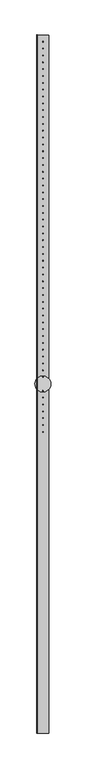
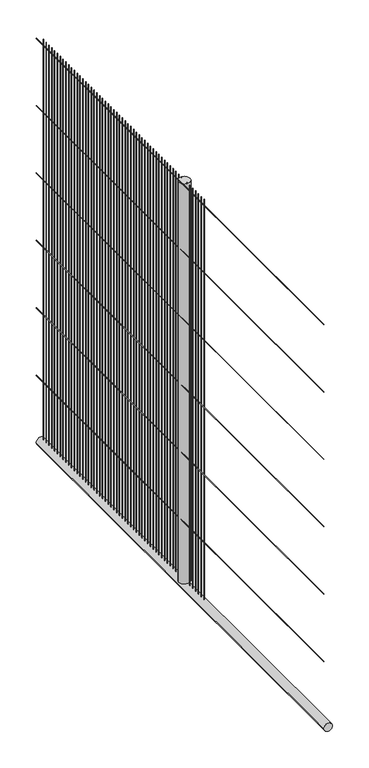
"""IFC4 building model written with IfcOpenShell, lengths in millimetres: railing geometry, Ballfangzaun."""

from ifc_helpers import new_model, si_unit, point, frame, frame_2d, origin, place, context, project, spatial, circle_curve, trimmed, segment, composite_curve, outline, extrude, source, transform, mapped, element, save


def railing_e47c1bca(model_context):
    return source(origin(), model_context, "Body", "SweptSolid", [
        extrude(outline(composite_curve([segment(trimmed(circle_curve(frame_2d((3098.5, 50872.2484531)), 1.5), [point((3098.5, 50873.7484531))], [point((3098.5, 50870.7484531))], False, "CARTESIAN"), True, "CONTINUOUS"), segment(trimmed(circle_curve(frame_2d((3098.5, 50872.2484531)), 1.5), [point((3098.5, 50870.7484531))], [point((3098.5, 50873.7484531))], False, "CARTESIAN"), True, "CONTINUOUS")], self_intersect=False)), frame((0.0, -35618.697095, 0.0), z_axis=(0.0, 1.0, 0.0), x_axis=(0.0, 0.0, 1.0)), (0.0, 0.0, 1.0), 3500.0),
        extrude(outline(composite_curve([segment(trimmed(circle_curve(frame_2d((3098.5, 50872.2484531)), 1.5), [point((3098.5, 50873.7484531))], [point((3098.5, 50870.7484531))], False, "CARTESIAN"), True, "CONTINUOUS"), segment(trimmed(circle_curve(frame_2d((3098.5, 50872.2484531)), 1.5), [point((3098.5, 50870.7484531))], [point((3098.5, 50873.7484531))], False, "CARTESIAN"), True, "CONTINUOUS")], self_intersect=False)), frame((0.0, -35618.697095, 0.0), z_axis=(0.0, 1.0, 0.0), x_axis=(0.0, 0.0, 1.0)), (0.0, 0.0, 1.0), 3500.0),
        extrude(outline(composite_curve([segment(trimmed(circle_curve(frame_2d((2598.5, 50872.2484531)), 1.5), [point((2598.5, 50873.7484531))], [point((2598.5, 50870.7484531))], False, "CARTESIAN"), True, "CONTINUOUS"), segment(trimmed(circle_curve(frame_2d((2598.5, 50872.2484531)), 1.5), [point((2598.5, 50870.7484531))], [point((2598.5, 50873.7484531))], False, "CARTESIAN"), True, "CONTINUOUS")], self_intersect=False)), frame((0.0, -35618.697095, 0.0), z_axis=(0.0, 1.0, 0.0), x_axis=(0.0, 0.0, 1.0)), (0.0, 0.0, 1.0), 3500.0),
        extrude(outline(composite_curve([segment(trimmed(circle_curve(frame_2d((2098.5, 50872.2484531)), 1.5), [point((2098.5, 50873.7484531))], [point((2098.5, 50870.7484531))], False, "CARTESIAN"), True, "CONTINUOUS"), segment(trimmed(circle_curve(frame_2d((2098.5, 50872.2484531)), 1.5), [point((2098.5, 50870.7484531))], [point((2098.5, 50873.7484531))], False, "CARTESIAN"), True, "CONTINUOUS")], self_intersect=False)), frame((0.0, -35618.697095, 0.0), z_axis=(0.0, 1.0, 0.0), x_axis=(0.0, 0.0, 1.0)), (0.0, 0.0, 1.0), 3500.0),
        extrude(outline(composite_curve([segment(trimmed(circle_curve(frame_2d((1598.5, 50872.2484531)), 1.5), [point((1598.5, 50873.7484531))], [point((1598.5, 50870.7484531))], False, "CARTESIAN"), True, "CONTINUOUS"), segment(trimmed(circle_curve(frame_2d((1598.5, 50872.2484531)), 1.5), [point((1598.5, 50870.7484531))], [point((1598.5, 50873.7484531))], False, "CARTESIAN"), True, "CONTINUOUS")], self_intersect=False)), frame((0.0, -35618.697095, 0.0), z_axis=(0.0, 1.0, 0.0), x_axis=(0.0, 0.0, 1.0)), (0.0, 0.0, 1.0), 3500.0),
        extrude(outline(composite_curve([segment(trimmed(circle_curve(frame_2d((1098.5, 50872.2484531)), 1.5), [point((1098.5, 50873.7484531))], [point((1098.5, 50870.7484531))], False, "CARTESIAN"), True, "CONTINUOUS"), segment(trimmed(circle_curve(frame_2d((1098.5, 50872.2484531)), 1.5), [point((1098.5, 50870.7484531))], [point((1098.5, 50873.7484531))], False, "CARTESIAN"), True, "CONTINUOUS")], self_intersect=False)), frame((0.0, -35618.697095, 0.0), z_axis=(0.0, 1.0, 0.0), x_axis=(0.0, 0.0, 1.0)), (0.0, 0.0, 1.0), 3500.0),
        extrude(outline(composite_curve([segment(trimmed(circle_curve(frame_2d((598.5, 50872.2484531)), 1.5), [point((598.5, 50873.7484531))], [point((598.5, 50870.7484531))], False, "CARTESIAN"), True, "CONTINUOUS"), segment(trimmed(circle_curve(frame_2d((598.5, 50872.2484531)), 1.5), [point((598.5, 50870.7484531))], [point((598.5, 50873.7484531))], False, "CARTESIAN"), True, "CONTINUOUS")], self_intersect=False)), frame((0.0, -35618.697095, 0.0), z_axis=(0.0, 1.0, 0.0), x_axis=(0.0, 0.0, 1.0)), (0.0, 0.0, 1.0), 3500.0),
        extrude(outline(composite_curve([segment(trimmed(circle_curve(frame_2d((100.0, 50902.2484531)), 30.0), [point((100.0, 50932.2484531))], [point((100.0, 50872.2484531))], False, "CARTESIAN"), True, "CONTINUOUS"), segment(trimmed(circle_curve(frame_2d((100.0, 50902.2484531)), 30.0), [point((100.0, 50872.2484531))], [point((100.0, 50932.2484531))], False, "CARTESIAN"), True, "CONTINUOUS")], self_intersect=False)), frame((0.0, -35618.697095, 0.0), z_axis=(0.0, 1.0, 0.0), x_axis=(0.0, 0.0, 1.0)), (0.0, 0.0, 1.0), 3500.0),
        extrude(outline(composite_curve([segment(trimmed(circle_curve(frame_2d((50902.2484531, -32153.0108205)), 1.5), [point((50900.7484531, -32153.0108205))], [point((50903.7484531, -32153.0108205))], False, "CARTESIAN"), True, "CONTINUOUS"), segment(trimmed(circle_curve(frame_2d((50902.2484531, -32153.0108205)), 1.5), [point((50903.7484531, -32153.0108205))], [point((50900.7484531, -32153.0108205))], False, "CARTESIAN"), True, "CONTINUOUS")], self_intersect=False)), frame((0.0, 0.0, 130.0), z_axis=(0.0, 0.0, 1.0), x_axis=(1.0, 0.0, 0.0)), (0.0, 0.0, 1.0), 2970.0),
        extrude(outline(composite_curve([segment(trimmed(circle_curve(frame_2d((50902.2484531, -32187.3245459)), 1.5), [point((50900.7484531, -32187.3245459))], [point((50903.7484531, -32187.3245459))], False, "CARTESIAN"), True, "CONTINUOUS"), segment(trimmed(circle_curve(frame_2d((50902.2484531, -32187.3245459)), 1.5), [point((50903.7484531, -32187.3245459))], [point((50900.7484531, -32187.3245459))], False, "CARTESIAN"), True, "CONTINUOUS")], self_intersect=False)), frame((0.0, 0.0, 130.0), z_axis=(0.0, 0.0, 1.0), x_axis=(1.0, 0.0, 0.0)), (0.0, 0.0, 1.0), 2970.0),
        extrude(outline(composite_curve([segment(trimmed(circle_curve(frame_2d((50902.2484531, -32221.6382714)), 1.5), [point((50900.7484531, -32221.6382714))], [point((50903.7484531, -32221.6382714))], False, "CARTESIAN"), True, "CONTINUOUS"), segment(trimmed(circle_curve(frame_2d((50902.2484531, -32221.6382714)), 1.5), [point((50903.7484531, -32221.6382714))], [point((50900.7484531, -32221.6382714))], False, "CARTESIAN"), True, "CONTINUOUS")], self_intersect=False)), frame((0.0, 0.0, 130.0), z_axis=(0.0, 0.0, 1.0), x_axis=(1.0, 0.0, 0.0)), (0.0, 0.0, 1.0), 2970.0),
        extrude(outline(composite_curve([segment(trimmed(circle_curve(frame_2d((50902.2484531, -32255.9519969)), 1.5), [point((50900.7484531, -32255.9519969))], [point((50903.7484531, -32255.9519969))], False, "CARTESIAN"), True, "CONTINUOUS"), segment(trimmed(circle_curve(frame_2d((50902.2484531, -32255.9519969)), 1.5), [point((50903.7484531, -32255.9519969))], [point((50900.7484531, -32255.9519969))], False, "CARTESIAN"), True, "CONTINUOUS")], self_intersect=False)), frame((0.0, 0.0, 130.0), z_axis=(0.0, 0.0, 1.0), x_axis=(1.0, 0.0, 0.0)), (0.0, 0.0, 1.0), 2970.0),
        extrude(outline(composite_curve([segment(trimmed(circle_curve(frame_2d((50902.2484531, -32290.2657224)), 1.5), [point((50900.7484531, -32290.2657224))], [point((50903.7484531, -32290.2657224))], False, "CARTESIAN"), True, "CONTINUOUS"), segment(trimmed(circle_curve(frame_2d((50902.2484531, -32290.2657224)), 1.5), [point((50903.7484531, -32290.2657224))], [point((50900.7484531, -32290.2657224))], False, "CARTESIAN"), True, "CONTINUOUS")], self_intersect=False)), frame((0.0, 0.0, 130.0), z_axis=(0.0, 0.0, 1.0), x_axis=(1.0, 0.0, 0.0)), (0.0, 0.0, 1.0), 2970.0),
        extrude(outline(composite_curve([segment(trimmed(circle_curve(frame_2d((50902.2484531, -32324.5794479)), 1.5), [point((50900.7484531, -32324.5794479))], [point((50903.7484531, -32324.5794479))], False, "CARTESIAN"), True, "CONTINUOUS"), segment(trimmed(circle_curve(frame_2d((50902.2484531, -32324.5794479)), 1.5), [point((50903.7484531, -32324.5794479))], [point((50900.7484531, -32324.5794479))], False, "CARTESIAN"), True, "CONTINUOUS")], self_intersect=False)), frame((0.0, 0.0, 130.0), z_axis=(0.0, 0.0, 1.0), x_axis=(1.0, 0.0, 0.0)), (0.0, 0.0, 1.0), 2970.0),
        extrude(outline(composite_curve([segment(trimmed(circle_curve(frame_2d((50902.2484531, -32358.8931734)), 1.5), [point((50900.7484531, -32358.8931734))], [point((50903.7484531, -32358.8931734))], False, "CARTESIAN"), True, "CONTINUOUS"), segment(trimmed(circle_curve(frame_2d((50902.2484531, -32358.8931734)), 1.5), [point((50903.7484531, -32358.8931734))], [point((50900.7484531, -32358.8931734))], False, "CARTESIAN"), True, "CONTINUOUS")], self_intersect=False)), frame((0.0, 0.0, 130.0), z_axis=(0.0, 0.0, 1.0), x_axis=(1.0, 0.0, 0.0)), (0.0, 0.0, 1.0), 2970.0),
        extrude(outline(composite_curve([segment(trimmed(circle_curve(frame_2d((50902.2484531, -32393.2068989)), 1.5), [point((50900.7484531, -32393.2068989))], [point((50903.7484531, -32393.2068989))], False, "CARTESIAN"), True, "CONTINUOUS"), segment(trimmed(circle_curve(frame_2d((50902.2484531, -32393.2068989)), 1.5), [point((50903.7484531, -32393.2068989))], [point((50900.7484531, -32393.2068989))], False, "CARTESIAN"), True, "CONTINUOUS")], self_intersect=False)), frame((0.0, 0.0, 130.0), z_axis=(0.0, 0.0, 1.0), x_axis=(1.0, 0.0, 0.0)), (0.0, 0.0, 1.0), 2970.0),
        extrude(outline(composite_curve([segment(trimmed(circle_curve(frame_2d((50902.2484531, -32427.5206244)), 1.5), [point((50900.7484531, -32427.5206244))], [point((50903.7484531, -32427.5206244))], False, "CARTESIAN"), True, "CONTINUOUS"), segment(trimmed(circle_curve(frame_2d((50902.2484531, -32427.5206244)), 1.5), [point((50903.7484531, -32427.5206244))], [point((50900.7484531, -32427.5206244))], False, "CARTESIAN"), True, "CONTINUOUS")], self_intersect=False)), frame((0.0, 0.0, 130.0), z_axis=(0.0, 0.0, 1.0), x_axis=(1.0, 0.0, 0.0)), (0.0, 0.0, 1.0), 2970.0),
        extrude(outline(composite_curve([segment(trimmed(circle_curve(frame_2d((50902.2484531, -32461.8343499)), 1.5), [point((50900.7484531, -32461.8343499))], [point((50903.7484531, -32461.8343499))], False, "CARTESIAN"), True, "CONTINUOUS"), segment(trimmed(circle_curve(frame_2d((50902.2484531, -32461.8343499)), 1.5), [point((50903.7484531, -32461.8343499))], [point((50900.7484531, -32461.8343499))], False, "CARTESIAN"), True, "CONTINUOUS")], self_intersect=False)), frame((0.0, 0.0, 130.0), z_axis=(0.0, 0.0, 1.0), x_axis=(1.0, 0.0, 0.0)), (0.0, 0.0, 1.0), 2970.0),
        extrude(outline(composite_curve([segment(trimmed(circle_curve(frame_2d((50902.2484531, -32496.1480754)), 1.5), [point((50900.7484531, -32496.1480754))], [point((50903.7484531, -32496.1480754))], False, "CARTESIAN"), True, "CONTINUOUS"), segment(trimmed(circle_curve(frame_2d((50902.2484531, -32496.1480754)), 1.5), [point((50903.7484531, -32496.1480754))], [point((50900.7484531, -32496.1480754))], False, "CARTESIAN"), True, "CONTINUOUS")], self_intersect=False)), frame((0.0, 0.0, 130.0), z_axis=(0.0, 0.0, 1.0), x_axis=(1.0, 0.0, 0.0)), (0.0, 0.0, 1.0), 2970.0),
        extrude(outline(composite_curve([segment(trimmed(circle_curve(frame_2d((50902.2484531, -32530.4618008)), 1.5), [point((50900.7484531, -32530.4618008))], [point((50903.7484531, -32530.4618008))], False, "CARTESIAN"), True, "CONTINUOUS"), segment(trimmed(circle_curve(frame_2d((50902.2484531, -32530.4618008)), 1.5), [point((50903.7484531, -32530.4618008))], [point((50900.7484531, -32530.4618008))], False, "CARTESIAN"), True, "CONTINUOUS")], self_intersect=False)), frame((0.0, 0.0, 130.0), z_axis=(0.0, 0.0, 1.0), x_axis=(1.0, 0.0, 0.0)), (0.0, 0.0, 1.0), 2970.0),
        extrude(outline(composite_curve([segment(trimmed(circle_curve(frame_2d((50902.2484531, -32564.7755263)), 1.5), [point((50900.7484531, -32564.7755263))], [point((50903.7484531, -32564.7755263))], False, "CARTESIAN"), True, "CONTINUOUS"), segment(trimmed(circle_curve(frame_2d((50902.2484531, -32564.7755263)), 1.5), [point((50903.7484531, -32564.7755263))], [point((50900.7484531, -32564.7755263))], False, "CARTESIAN"), True, "CONTINUOUS")], self_intersect=False)), frame((0.0, 0.0, 130.0), z_axis=(0.0, 0.0, 1.0), x_axis=(1.0, 0.0, 0.0)), (0.0, 0.0, 1.0), 2970.0),
        extrude(outline(composite_curve([segment(trimmed(circle_curve(frame_2d((50902.2484531, -32599.0892518)), 1.5), [point((50900.7484531, -32599.0892518))], [point((50903.7484531, -32599.0892518))], False, "CARTESIAN"), True, "CONTINUOUS"), segment(trimmed(circle_curve(frame_2d((50902.2484531, -32599.0892518)), 1.5), [point((50903.7484531, -32599.0892518))], [point((50900.7484531, -32599.0892518))], False, "CARTESIAN"), True, "CONTINUOUS")], self_intersect=False)), frame((0.0, 0.0, 130.0), z_axis=(0.0, 0.0, 1.0), x_axis=(1.0, 0.0, 0.0)), (0.0, 0.0, 1.0), 2970.0),
        extrude(outline(composite_curve([segment(trimmed(circle_curve(frame_2d((50902.2484531, -32633.4029773)), 1.5), [point((50900.7484531, -32633.4029773))], [point((50903.7484531, -32633.4029773))], False, "CARTESIAN"), True, "CONTINUOUS"), segment(trimmed(circle_curve(frame_2d((50902.2484531, -32633.4029773)), 1.5), [point((50903.7484531, -32633.4029773))], [point((50900.7484531, -32633.4029773))], False, "CARTESIAN"), True, "CONTINUOUS")], self_intersect=False)), frame((0.0, 0.0, 130.0), z_axis=(0.0, 0.0, 1.0), x_axis=(1.0, 0.0, 0.0)), (0.0, 0.0, 1.0), 2970.0),
        extrude(outline(composite_curve([segment(trimmed(circle_curve(frame_2d((50902.2484531, -32667.7167028)), 1.5), [point((50900.7484531, -32667.7167028))], [point((50903.7484531, -32667.7167028))], False, "CARTESIAN"), True, "CONTINUOUS"), segment(trimmed(circle_curve(frame_2d((50902.2484531, -32667.7167028)), 1.5), [point((50903.7484531, -32667.7167028))], [point((50900.7484531, -32667.7167028))], False, "CARTESIAN"), True, "CONTINUOUS")], self_intersect=False)), frame((0.0, 0.0, 130.0), z_axis=(0.0, 0.0, 1.0), x_axis=(1.0, 0.0, 0.0)), (0.0, 0.0, 1.0), 2970.0),
        extrude(outline(composite_curve([segment(trimmed(circle_curve(frame_2d((50902.2484531, -32702.0304283)), 1.5), [point((50900.7484531, -32702.0304283))], [point((50903.7484531, -32702.0304283))], False, "CARTESIAN"), True, "CONTINUOUS"), segment(trimmed(circle_curve(frame_2d((50902.2484531, -32702.0304283)), 1.5), [point((50903.7484531, -32702.0304283))], [point((50900.7484531, -32702.0304283))], False, "CARTESIAN"), True, "CONTINUOUS")], self_intersect=False)), frame((0.0, 0.0, 130.0), z_axis=(0.0, 0.0, 1.0), x_axis=(1.0, 0.0, 0.0)), (0.0, 0.0, 1.0), 2970.0),
        extrude(outline(composite_curve([segment(trimmed(circle_curve(frame_2d((50902.2484531, -32736.3441538)), 1.5), [point((50900.7484531, -32736.3441538))], [point((50903.7484531, -32736.3441538))], False, "CARTESIAN"), True, "CONTINUOUS"), segment(trimmed(circle_curve(frame_2d((50902.2484531, -32736.3441538)), 1.5), [point((50903.7484531, -32736.3441538))], [point((50900.7484531, -32736.3441538))], False, "CARTESIAN"), True, "CONTINUOUS")], self_intersect=False)), frame((0.0, 0.0, 130.0), z_axis=(0.0, 0.0, 1.0), x_axis=(1.0, 0.0, 0.0)), (0.0, 0.0, 1.0), 2970.0),
        extrude(outline(composite_curve([segment(trimmed(circle_curve(frame_2d((50902.2484531, -32770.6578793)), 1.5), [point((50900.7484531, -32770.6578793))], [point((50903.7484531, -32770.6578793))], False, "CARTESIAN"), True, "CONTINUOUS"), segment(trimmed(circle_curve(frame_2d((50902.2484531, -32770.6578793)), 1.5), [point((50903.7484531, -32770.6578793))], [point((50900.7484531, -32770.6578793))], False, "CARTESIAN"), True, "CONTINUOUS")], self_intersect=False)), frame((0.0, 0.0, 130.0), z_axis=(0.0, 0.0, 1.0), x_axis=(1.0, 0.0, 0.0)), (0.0, 0.0, 1.0), 2970.0),
        extrude(outline(composite_curve([segment(trimmed(circle_curve(frame_2d((50902.2484531, -32804.9716048)), 1.5), [point((50900.7484531, -32804.9716048))], [point((50903.7484531, -32804.9716048))], False, "CARTESIAN"), True, "CONTINUOUS"), segment(trimmed(circle_curve(frame_2d((50902.2484531, -32804.9716048)), 1.5), [point((50903.7484531, -32804.9716048))], [point((50900.7484531, -32804.9716048))], False, "CARTESIAN"), True, "CONTINUOUS")], self_intersect=False)), frame((0.0, 0.0, 130.0), z_axis=(0.0, 0.0, 1.0), x_axis=(1.0, 0.0, 0.0)), (0.0, 0.0, 1.0), 2970.0),
        extrude(outline(composite_curve([segment(trimmed(circle_curve(frame_2d((50902.2484531, -32839.2853303)), 1.5), [point((50900.7484531, -32839.2853303))], [point((50903.7484531, -32839.2853303))], False, "CARTESIAN"), True, "CONTINUOUS"), segment(trimmed(circle_curve(frame_2d((50902.2484531, -32839.2853303)), 1.5), [point((50903.7484531, -32839.2853303))], [point((50900.7484531, -32839.2853303))], False, "CARTESIAN"), True, "CONTINUOUS")], self_intersect=False)), frame((0.0, 0.0, 130.0), z_axis=(0.0, 0.0, 1.0), x_axis=(1.0, 0.0, 0.0)), (0.0, 0.0, 1.0), 2970.0),
        extrude(outline(composite_curve([segment(trimmed(circle_curve(frame_2d((50902.2484531, -32873.5990557)), 1.5), [point((50900.7484531, -32873.5990557))], [point((50903.7484531, -32873.5990557))], False, "CARTESIAN"), True, "CONTINUOUS"), segment(trimmed(circle_curve(frame_2d((50902.2484531, -32873.5990557)), 1.5), [point((50903.7484531, -32873.5990557))], [point((50900.7484531, -32873.5990557))], False, "CARTESIAN"), True, "CONTINUOUS")], self_intersect=False)), frame((0.0, 0.0, 130.0), z_axis=(0.0, 0.0, 1.0), x_axis=(1.0, 0.0, 0.0)), (0.0, 0.0, 1.0), 2970.0),
        extrude(outline(composite_curve([segment(trimmed(circle_curve(frame_2d((50902.2484531, -32907.9127812)), 1.5), [point((50900.7484531, -32907.9127812))], [point((50903.7484531, -32907.9127812))], False, "CARTESIAN"), True, "CONTINUOUS"), segment(trimmed(circle_curve(frame_2d((50902.2484531, -32907.9127812)), 1.5), [point((50903.7484531, -32907.9127812))], [point((50900.7484531, -32907.9127812))], False, "CARTESIAN"), True, "CONTINUOUS")], self_intersect=False)), frame((0.0, 0.0, 130.0), z_axis=(0.0, 0.0, 1.0), x_axis=(1.0, 0.0, 0.0)), (0.0, 0.0, 1.0), 2970.0),
        extrude(outline(composite_curve([segment(trimmed(circle_curve(frame_2d((50902.2484531, -32942.2265067)), 1.5), [point((50900.7484531, -32942.2265067))], [point((50903.7484531, -32942.2265067))], False, "CARTESIAN"), True, "CONTINUOUS"), segment(trimmed(circle_curve(frame_2d((50902.2484531, -32942.2265067)), 1.5), [point((50903.7484531, -32942.2265067))], [point((50900.7484531, -32942.2265067))], False, "CARTESIAN"), True, "CONTINUOUS")], self_intersect=False)), frame((0.0, 0.0, 130.0), z_axis=(0.0, 0.0, 1.0), x_axis=(1.0, 0.0, 0.0)), (0.0, 0.0, 1.0), 2970.0),
        extrude(outline(composite_curve([segment(trimmed(circle_curve(frame_2d((50902.2484531, -32976.5402322)), 1.5), [point((50900.7484531, -32976.5402322))], [point((50903.7484531, -32976.5402322))], False, "CARTESIAN"), True, "CONTINUOUS"), segment(trimmed(circle_curve(frame_2d((50902.2484531, -32976.5402322)), 1.5), [point((50903.7484531, -32976.5402322))], [point((50900.7484531, -32976.5402322))], False, "CARTESIAN"), True, "CONTINUOUS")], self_intersect=False)), frame((0.0, 0.0, 130.0), z_axis=(0.0, 0.0, 1.0), x_axis=(1.0, 0.0, 0.0)), (0.0, 0.0, 1.0), 2970.0),
        extrude(outline(composite_curve([segment(trimmed(circle_curve(frame_2d((50902.2484531, -33010.8539577)), 1.5), [point((50900.7484531, -33010.8539577))], [point((50903.7484531, -33010.8539577))], False, "CARTESIAN"), True, "CONTINUOUS"), segment(trimmed(circle_curve(frame_2d((50902.2484531, -33010.8539577)), 1.5), [point((50903.7484531, -33010.8539577))], [point((50900.7484531, -33010.8539577))], False, "CARTESIAN"), True, "CONTINUOUS")], self_intersect=False)), frame((0.0, 0.0, 130.0), z_axis=(0.0, 0.0, 1.0), x_axis=(1.0, 0.0, 0.0)), (0.0, 0.0, 1.0), 2970.0),
        extrude(outline(composite_curve([segment(trimmed(circle_curve(frame_2d((50902.2484531, -33045.1676832)), 1.5), [point((50900.7484531, -33045.1676832))], [point((50903.7484531, -33045.1676832))], False, "CARTESIAN"), True, "CONTINUOUS"), segment(trimmed(circle_curve(frame_2d((50902.2484531, -33045.1676832)), 1.5), [point((50903.7484531, -33045.1676832))], [point((50900.7484531, -33045.1676832))], False, "CARTESIAN"), True, "CONTINUOUS")], self_intersect=False)), frame((0.0, 0.0, 130.0), z_axis=(0.0, 0.0, 1.0), x_axis=(1.0, 0.0, 0.0)), (0.0, 0.0, 1.0), 2970.0),
        extrude(outline(composite_curve([segment(trimmed(circle_curve(frame_2d((50902.2484531, -33079.4814087)), 1.5), [point((50900.7484531, -33079.4814087))], [point((50903.7484531, -33079.4814087))], False, "CARTESIAN"), True, "CONTINUOUS"), segment(trimmed(circle_curve(frame_2d((50902.2484531, -33079.4814087)), 1.5), [point((50903.7484531, -33079.4814087))], [point((50900.7484531, -33079.4814087))], False, "CARTESIAN"), True, "CONTINUOUS")], self_intersect=False)), frame((0.0, 0.0, 130.0), z_axis=(0.0, 0.0, 1.0), x_axis=(1.0, 0.0, 0.0)), (0.0, 0.0, 1.0), 2970.0),
        extrude(outline(composite_curve([segment(trimmed(circle_curve(frame_2d((50902.2484531, -33113.7951342)), 1.5), [point((50900.7484531, -33113.7951342))], [point((50903.7484531, -33113.7951342))], False, "CARTESIAN"), True, "CONTINUOUS"), segment(trimmed(circle_curve(frame_2d((50902.2484531, -33113.7951342)), 1.5), [point((50903.7484531, -33113.7951342))], [point((50900.7484531, -33113.7951342))], False, "CARTESIAN"), True, "CONTINUOUS")], self_intersect=False)), frame((0.0, 0.0, 130.0), z_axis=(0.0, 0.0, 1.0), x_axis=(1.0, 0.0, 0.0)), (0.0, 0.0, 1.0), 2970.0),
        extrude(outline(composite_curve([segment(trimmed(circle_curve(frame_2d((50902.2484531, -33148.1088597)), 1.5), [point((50900.7484531, -33148.1088597))], [point((50903.7484531, -33148.1088597))], False, "CARTESIAN"), True, "CONTINUOUS"), segment(trimmed(circle_curve(frame_2d((50902.2484531, -33148.1088597)), 1.5), [point((50903.7484531, -33148.1088597))], [point((50900.7484531, -33148.1088597))], False, "CARTESIAN"), True, "CONTINUOUS")], self_intersect=False)), frame((0.0, 0.0, 130.0), z_axis=(0.0, 0.0, 1.0), x_axis=(1.0, 0.0, 0.0)), (0.0, 0.0, 1.0), 2970.0),
        extrude(outline(composite_curve([segment(trimmed(circle_curve(frame_2d((50902.2484531, -33182.4225852)), 1.5), [point((50900.7484531, -33182.4225852))], [point((50903.7484531, -33182.4225852))], False, "CARTESIAN"), True, "CONTINUOUS"), segment(trimmed(circle_curve(frame_2d((50902.2484531, -33182.4225852)), 1.5), [point((50903.7484531, -33182.4225852))], [point((50900.7484531, -33182.4225852))], False, "CARTESIAN"), True, "CONTINUOUS")], self_intersect=False)), frame((0.0, 0.0, 130.0), z_axis=(0.0, 0.0, 1.0), x_axis=(1.0, 0.0, 0.0)), (0.0, 0.0, 1.0), 2970.0),
        extrude(outline(composite_curve([segment(trimmed(circle_curve(frame_2d((50902.2484531, -33216.7363106)), 1.5), [point((50900.7484531, -33216.7363106))], [point((50903.7484531, -33216.7363106))], False, "CARTESIAN"), True, "CONTINUOUS"), segment(trimmed(circle_curve(frame_2d((50902.2484531, -33216.7363106)), 1.5), [point((50903.7484531, -33216.7363106))], [point((50900.7484531, -33216.7363106))], False, "CARTESIAN"), True, "CONTINUOUS")], self_intersect=False)), frame((0.0, 0.0, 130.0), z_axis=(0.0, 0.0, 1.0), x_axis=(1.0, 0.0, 0.0)), (0.0, 0.0, 1.0), 2970.0),
        extrude(outline(composite_curve([segment(trimmed(circle_curve(frame_2d((50902.2484531, -33251.0500361)), 1.5), [point((50900.7484531, -33251.0500361))], [point((50903.7484531, -33251.0500361))], False, "CARTESIAN"), True, "CONTINUOUS"), segment(trimmed(circle_curve(frame_2d((50902.2484531, -33251.0500361)), 1.5), [point((50903.7484531, -33251.0500361))], [point((50900.7484531, -33251.0500361))], False, "CARTESIAN"), True, "CONTINUOUS")], self_intersect=False)), frame((0.0, 0.0, 130.0), z_axis=(0.0, 0.0, 1.0), x_axis=(1.0, 0.0, 0.0)), (0.0, 0.0, 1.0), 2970.0),
        extrude(outline(composite_curve([segment(trimmed(circle_curve(frame_2d((50902.2484531, -33285.3637616)), 1.5), [point((50900.7484531, -33285.3637616))], [point((50903.7484531, -33285.3637616))], False, "CARTESIAN"), True, "CONTINUOUS"), segment(trimmed(circle_curve(frame_2d((50902.2484531, -33285.3637616)), 1.5), [point((50903.7484531, -33285.3637616))], [point((50900.7484531, -33285.3637616))], False, "CARTESIAN"), True, "CONTINUOUS")], self_intersect=False)), frame((0.0, 0.0, 130.0), z_axis=(0.0, 0.0, 1.0), x_axis=(1.0, 0.0, 0.0)), (0.0, 0.0, 1.0), 2970.0),
        extrude(outline(composite_curve([segment(trimmed(circle_curve(frame_2d((50902.2484531, -33319.6774871)), 1.5), [point((50900.7484531, -33319.6774871))], [point((50903.7484531, -33319.6774871))], False, "CARTESIAN"), True, "CONTINUOUS"), segment(trimmed(circle_curve(frame_2d((50902.2484531, -33319.6774871)), 1.5), [point((50903.7484531, -33319.6774871))], [point((50900.7484531, -33319.6774871))], False, "CARTESIAN"), True, "CONTINUOUS")], self_intersect=False)), frame((0.0, 0.0, 130.0), z_axis=(0.0, 0.0, 1.0), x_axis=(1.0, 0.0, 0.0)), (0.0, 0.0, 1.0), 2970.0),
        extrude(outline(composite_curve([segment(trimmed(circle_curve(frame_2d((50902.2484531, -33353.9912126)), 1.5), [point((50900.7484531, -33353.9912126))], [point((50903.7484531, -33353.9912126))], False, "CARTESIAN"), True, "CONTINUOUS"), segment(trimmed(circle_curve(frame_2d((50902.2484531, -33353.9912126)), 1.5), [point((50903.7484531, -33353.9912126))], [point((50900.7484531, -33353.9912126))], False, "CARTESIAN"), True, "CONTINUOUS")], self_intersect=False)), frame((0.0, 0.0, 130.0), z_axis=(0.0, 0.0, 1.0), x_axis=(1.0, 0.0, 0.0)), (0.0, 0.0, 1.0), 2970.0),
        extrude(outline(composite_curve([segment(trimmed(circle_curve(frame_2d((50902.2484531, -33388.3049381)), 1.5), [point((50900.7484531, -33388.3049381))], [point((50903.7484531, -33388.3049381))], False, "CARTESIAN"), True, "CONTINUOUS"), segment(trimmed(circle_curve(frame_2d((50902.2484531, -33388.3049381)), 1.5), [point((50903.7484531, -33388.3049381))], [point((50900.7484531, -33388.3049381))], False, "CARTESIAN"), True, "CONTINUOUS")], self_intersect=False)), frame((0.0, 0.0, 130.0), z_axis=(0.0, 0.0, 1.0), x_axis=(1.0, 0.0, 0.0)), (0.0, 0.0, 1.0), 2970.0),
        extrude(outline(composite_curve([segment(trimmed(circle_curve(frame_2d((50902.2484531, -33422.6186636)), 1.5), [point((50900.7484531, -33422.6186636))], [point((50903.7484531, -33422.6186636))], False, "CARTESIAN"), True, "CONTINUOUS"), segment(trimmed(circle_curve(frame_2d((50902.2484531, -33422.6186636)), 1.5), [point((50903.7484531, -33422.6186636))], [point((50900.7484531, -33422.6186636))], False, "CARTESIAN"), True, "CONTINUOUS")], self_intersect=False)), frame((0.0, 0.0, 130.0), z_axis=(0.0, 0.0, 1.0), x_axis=(1.0, 0.0, 0.0)), (0.0, 0.0, 1.0), 2970.0),
        extrude(outline(composite_curve([segment(trimmed(circle_curve(frame_2d((50902.2484531, -33456.9323891)), 1.5), [point((50900.7484531, -33456.9323891))], [point((50903.7484531, -33456.9323891))], False, "CARTESIAN"), True, "CONTINUOUS"), segment(trimmed(circle_curve(frame_2d((50902.2484531, -33456.9323891)), 1.5), [point((50903.7484531, -33456.9323891))], [point((50900.7484531, -33456.9323891))], False, "CARTESIAN"), True, "CONTINUOUS")], self_intersect=False)), frame((0.0, 0.0, 130.0), z_axis=(0.0, 0.0, 1.0), x_axis=(1.0, 0.0, 0.0)), (0.0, 0.0, 1.0), 2970.0),
        extrude(outline(composite_curve([segment(trimmed(circle_curve(frame_2d((50902.2484531, -33491.2461146)), 1.5), [point((50900.7484531, -33491.2461146))], [point((50903.7484531, -33491.2461146))], False, "CARTESIAN"), True, "CONTINUOUS"), segment(trimmed(circle_curve(frame_2d((50902.2484531, -33491.2461146)), 1.5), [point((50903.7484531, -33491.2461146))], [point((50900.7484531, -33491.2461146))], False, "CARTESIAN"), True, "CONTINUOUS")], self_intersect=False)), frame((0.0, 0.0, 130.0), z_axis=(0.0, 0.0, 1.0), x_axis=(1.0, 0.0, 0.0)), (0.0, 0.0, 1.0), 2970.0),
        extrude(outline(composite_curve([segment(trimmed(circle_curve(frame_2d((50902.2484531, -33525.5598401)), 1.5), [point((50900.7484531, -33525.5598401))], [point((50903.7484531, -33525.5598401))], False, "CARTESIAN"), True, "CONTINUOUS"), segment(trimmed(circle_curve(frame_2d((50902.2484531, -33525.5598401)), 1.5), [point((50903.7484531, -33525.5598401))], [point((50900.7484531, -33525.5598401))], False, "CARTESIAN"), True, "CONTINUOUS")], self_intersect=False)), frame((0.0, 0.0, 130.0), z_axis=(0.0, 0.0, 1.0), x_axis=(1.0, 0.0, 0.0)), (0.0, 0.0, 1.0), 2970.0),
        extrude(outline(composite_curve([segment(trimmed(circle_curve(frame_2d((50902.2484531, -33559.8735655)), 1.5), [point((50900.7484531, -33559.8735655))], [point((50903.7484531, -33559.8735655))], False, "CARTESIAN"), True, "CONTINUOUS"), segment(trimmed(circle_curve(frame_2d((50902.2484531, -33559.8735655)), 1.5), [point((50903.7484531, -33559.8735655))], [point((50900.7484531, -33559.8735655))], False, "CARTESIAN"), True, "CONTINUOUS")], self_intersect=False)), frame((0.0, 0.0, 130.0), z_axis=(0.0, 0.0, 1.0), x_axis=(1.0, 0.0, 0.0)), (0.0, 0.0, 1.0), 2970.0),
        extrude(outline(composite_curve([segment(trimmed(circle_curve(frame_2d((50902.2484531, -33594.187291)), 1.5), [point((50900.7484531, -33594.187291))], [point((50903.7484531, -33594.187291))], False, "CARTESIAN"), True, "CONTINUOUS"), segment(trimmed(circle_curve(frame_2d((50902.2484531, -33594.187291)), 1.5), [point((50903.7484531, -33594.187291))], [point((50900.7484531, -33594.187291))], False, "CARTESIAN"), True, "CONTINUOUS")], self_intersect=False)), frame((0.0, 0.0, 130.0), z_axis=(0.0, 0.0, 1.0), x_axis=(1.0, 0.0, 0.0)), (0.0, 0.0, 1.0), 2970.0),
        extrude(outline(composite_curve([segment(trimmed(circle_curve(frame_2d((50902.2484531, -33628.5010165)), 1.5), [point((50900.7484531, -33628.5010165))], [point((50903.7484531, -33628.5010165))], False, "CARTESIAN"), True, "CONTINUOUS"), segment(trimmed(circle_curve(frame_2d((50902.2484531, -33628.5010165)), 1.5), [point((50903.7484531, -33628.5010165))], [point((50900.7484531, -33628.5010165))], False, "CARTESIAN"), True, "CONTINUOUS")], self_intersect=False)), frame((0.0, 0.0, 130.0), z_axis=(0.0, 0.0, 1.0), x_axis=(1.0, 0.0, 0.0)), (0.0, 0.0, 1.0), 2970.0),
        extrude(outline(composite_curve([segment(trimmed(circle_curve(frame_2d((50902.2484531, -33662.814742)), 1.5), [point((50900.7484531, -33662.814742))], [point((50903.7484531, -33662.814742))], False, "CARTESIAN"), True, "CONTINUOUS"), segment(trimmed(circle_curve(frame_2d((50902.2484531, -33662.814742)), 1.5), [point((50903.7484531, -33662.814742))], [point((50900.7484531, -33662.814742))], False, "CARTESIAN"), True, "CONTINUOUS")], self_intersect=False)), frame((0.0, 0.0, 130.0), z_axis=(0.0, 0.0, 1.0), x_axis=(1.0, 0.0, 0.0)), (0.0, 0.0, 1.0), 2970.0),
        extrude(outline(composite_curve([segment(trimmed(circle_curve(frame_2d((50902.2484531, -33697.1284675)), 1.5), [point((50900.7484531, -33697.1284675))], [point((50903.7484531, -33697.1284675))], False, "CARTESIAN"), True, "CONTINUOUS"), segment(trimmed(circle_curve(frame_2d((50902.2484531, -33697.1284675)), 1.5), [point((50903.7484531, -33697.1284675))], [point((50900.7484531, -33697.1284675))], False, "CARTESIAN"), True, "CONTINUOUS")], self_intersect=False)), frame((0.0, 0.0, 130.0), z_axis=(0.0, 0.0, 1.0), x_axis=(1.0, 0.0, 0.0)), (0.0, 0.0, 1.0), 2970.0),
        extrude(outline(composite_curve([segment(trimmed(circle_curve(frame_2d((50902.2484531, -33731.442193)), 1.5), [point((50900.7484531, -33731.442193))], [point((50903.7484531, -33731.442193))], False, "CARTESIAN"), True, "CONTINUOUS"), segment(trimmed(circle_curve(frame_2d((50902.2484531, -33731.442193)), 1.5), [point((50903.7484531, -33731.442193))], [point((50900.7484531, -33731.442193))], False, "CARTESIAN"), True, "CONTINUOUS")], self_intersect=False)), frame((0.0, 0.0, 130.0), z_axis=(0.0, 0.0, 1.0), x_axis=(1.0, 0.0, 0.0)), (0.0, 0.0, 1.0), 2970.0),
        extrude(outline(composite_curve([segment(trimmed(circle_curve(frame_2d((50902.2484531, -33765.7559185)), 1.5), [point((50900.7484531, -33765.7559185))], [point((50903.7484531, -33765.7559185))], False, "CARTESIAN"), True, "CONTINUOUS"), segment(trimmed(circle_curve(frame_2d((50902.2484531, -33765.7559185)), 1.5), [point((50903.7484531, -33765.7559185))], [point((50900.7484531, -33765.7559185))], False, "CARTESIAN"), True, "CONTINUOUS")], self_intersect=False)), frame((0.0, 0.0, 130.0), z_axis=(0.0, 0.0, 1.0), x_axis=(1.0, 0.0, 0.0)), (0.0, 0.0, 1.0), 2970.0),
        extrude(outline(composite_curve([segment(trimmed(circle_curve(frame_2d((50902.2484531, -33800.069644)), 1.5), [point((50900.7484531, -33800.069644))], [point((50903.7484531, -33800.069644))], False, "CARTESIAN"), True, "CONTINUOUS"), segment(trimmed(circle_curve(frame_2d((50902.2484531, -33800.069644)), 1.5), [point((50903.7484531, -33800.069644))], [point((50900.7484531, -33800.069644))], False, "CARTESIAN"), True, "CONTINUOUS")], self_intersect=False)), frame((0.0, 0.0, 130.0), z_axis=(0.0, 0.0, 1.0), x_axis=(1.0, 0.0, 0.0)), (0.0, 0.0, 1.0), 2970.0),
        extrude(outline(composite_curve([segment(trimmed(circle_curve(frame_2d((50902.2484531, -33834.3833695)), 1.5), [point((50900.7484531, -33834.3833695))], [point((50903.7484531, -33834.3833695))], False, "CARTESIAN"), True, "CONTINUOUS"), segment(trimmed(circle_curve(frame_2d((50902.2484531, -33834.3833695)), 1.5), [point((50903.7484531, -33834.3833695))], [point((50900.7484531, -33834.3833695))], False, "CARTESIAN"), True, "CONTINUOUS")], self_intersect=False)), frame((0.0, 0.0, 130.0), z_axis=(0.0, 0.0, 1.0), x_axis=(1.0, 0.0, 0.0)), (0.0, 0.0, 1.0), 2970.0),
        extrude(outline(composite_curve([segment(trimmed(circle_curve(frame_2d((50902.2484531, -33868.697095)), 40.0), [point((50862.2484531, -33868.697095))], [point((50942.2484531, -33868.697095))], False, "CARTESIAN"), True, "CONTINUOUS"), segment(trimmed(circle_curve(frame_2d((50902.2484531, -33868.697095)), 40.0), [point((50942.2484531, -33868.697095))], [point((50862.2484531, -33868.697095))], False, "CARTESIAN"), True, "CONTINUOUS")], self_intersect=False)), frame((0.0, 0.0, 130.0), z_axis=(0.0, 0.0, 1.0), x_axis=(1.0, 0.0, 0.0)), (0.0, 0.0, 1.0), 2967.0),
        extrude(outline(composite_curve([segment(trimmed(circle_curve(frame_2d((50902.2484531, -33903.0108205)), 1.5), [point((50900.7484531, -33903.0108205))], [point((50903.7484531, -33903.0108205))], False, "CARTESIAN"), True, "CONTINUOUS"), segment(trimmed(circle_curve(frame_2d((50902.2484531, -33903.0108205)), 1.5), [point((50903.7484531, -33903.0108205))], [point((50900.7484531, -33903.0108205))], False, "CARTESIAN"), True, "CONTINUOUS")], self_intersect=False)), frame((0.0, 0.0, 130.0), z_axis=(0.0, 0.0, 1.0), x_axis=(1.0, 0.0, 0.0)), (0.0, 0.0, 1.0), 2970.0),
        extrude(outline(composite_curve([segment(trimmed(circle_curve(frame_2d((50902.2484531, -33937.3245459)), 1.5), [point((50900.7484531, -33937.3245459))], [point((50903.7484531, -33937.3245459))], False, "CARTESIAN"), True, "CONTINUOUS"), segment(trimmed(circle_curve(frame_2d((50902.2484531, -33937.3245459)), 1.5), [point((50903.7484531, -33937.3245459))], [point((50900.7484531, -33937.3245459))], False, "CARTESIAN"), True, "CONTINUOUS")], self_intersect=False)), frame((0.0, 0.0, 130.0), z_axis=(0.0, 0.0, 1.0), x_axis=(1.0, 0.0, 0.0)), (0.0, 0.0, 1.0), 2970.0),
        extrude(outline(composite_curve([segment(trimmed(circle_curve(frame_2d((50902.2484531, -33971.6382714)), 1.5), [point((50900.7484531, -33971.6382714))], [point((50903.7484531, -33971.6382714))], False, "CARTESIAN"), True, "CONTINUOUS"), segment(trimmed(circle_curve(frame_2d((50902.2484531, -33971.6382714)), 1.5), [point((50903.7484531, -33971.6382714))], [point((50900.7484531, -33971.6382714))], False, "CARTESIAN"), True, "CONTINUOUS")], self_intersect=False)), frame((0.0, 0.0, 130.0), z_axis=(0.0, 0.0, 1.0), x_axis=(1.0, 0.0, 0.0)), (0.0, 0.0, 1.0), 2970.0),
        extrude(outline(composite_curve([segment(trimmed(circle_curve(frame_2d((50902.2484531, -34005.9519969)), 1.5), [point((50900.7484531, -34005.9519969))], [point((50903.7484531, -34005.9519969))], False, "CARTESIAN"), True, "CONTINUOUS"), segment(trimmed(circle_curve(frame_2d((50902.2484531, -34005.9519969)), 1.5), [point((50903.7484531, -34005.9519969))], [point((50900.7484531, -34005.9519969))], False, "CARTESIAN"), True, "CONTINUOUS")], self_intersect=False)), frame((0.0, 0.0, 130.0), z_axis=(0.0, 0.0, 1.0), x_axis=(1.0, 0.0, 0.0)), (0.0, 0.0, 1.0), 2970.0),
        extrude(outline(composite_curve([segment(trimmed(circle_curve(frame_2d((50902.2484531, -34040.2657224)), 1.5), [point((50900.7484531, -34040.2657224))], [point((50903.7484531, -34040.2657224))], False, "CARTESIAN"), True, "CONTINUOUS"), segment(trimmed(circle_curve(frame_2d((50902.2484531, -34040.2657224)), 1.5), [point((50903.7484531, -34040.2657224))], [point((50900.7484531, -34040.2657224))], False, "CARTESIAN"), True, "CONTINUOUS")], self_intersect=False)), frame((0.0, 0.0, 130.0), z_axis=(0.0, 0.0, 1.0), x_axis=(1.0, 0.0, 0.0)), (0.0, 0.0, 1.0), 2970.0),
        extrude(outline(composite_curve([segment(trimmed(circle_curve(frame_2d((50902.2484531, -34074.5794479)), 1.5), [point((50900.7484531, -34074.5794479))], [point((50903.7484531, -34074.5794479))], False, "CARTESIAN"), True, "CONTINUOUS"), segment(trimmed(circle_curve(frame_2d((50902.2484531, -34074.5794479)), 1.5), [point((50903.7484531, -34074.5794479))], [point((50900.7484531, -34074.5794479))], False, "CARTESIAN"), True, "CONTINUOUS")], self_intersect=False)), frame((0.0, 0.0, 130.0), z_axis=(0.0, 0.0, 1.0), x_axis=(1.0, 0.0, 0.0)), (0.0, 0.0, 1.0), 2970.0),
        extrude(outline(composite_curve([segment(trimmed(circle_curve(frame_2d((50902.2484531, -34108.8931734)), 1.5), [point((50900.7484531, -34108.8931734))], [point((50903.7484531, -34108.8931734))], False, "CARTESIAN"), True, "CONTINUOUS"), segment(trimmed(circle_curve(frame_2d((50902.2484531, -34108.8931734)), 1.5), [point((50903.7484531, -34108.8931734))], [point((50900.7484531, -34108.8931734))], False, "CARTESIAN"), True, "CONTINUOUS")], self_intersect=False)), frame((0.0, 0.0, 130.0), z_axis=(0.0, 0.0, 1.0), x_axis=(1.0, 0.0, 0.0)), (0.0, 0.0, 1.0), 2970.0),
    ])


if __name__ == "__main__":
    model = new_model("IFC4")
    model_context = context("Model", 3, world=origin())
    ifc_project = project(units=[si_unit("LENGTHUNIT", "METRE", prefix="MILLI")], contexts=[model_context])
    site = spatial("IfcSite", under=ifc_project)
    building = spatial("IfcBuilding", under=site)
    placement = place(None, origin())
    railing_shape = railing_e47c1bca(model_context)
    element("IfcRailing", 1, ObjectType="Ballfangzaun", at=placement, inside=building, context=model_context, shape_type="MappedRepresentation", body=[
        mapped(railing_shape, transform((0.0, 0.0, 0.0), x_axis=(1.0, 0.0, 0.0), y_axis=(0.0, 1.0, 0.0), z_axis=(0.0, 0.0, 1.0))),
    ])
    save(model, "model.ifc")
